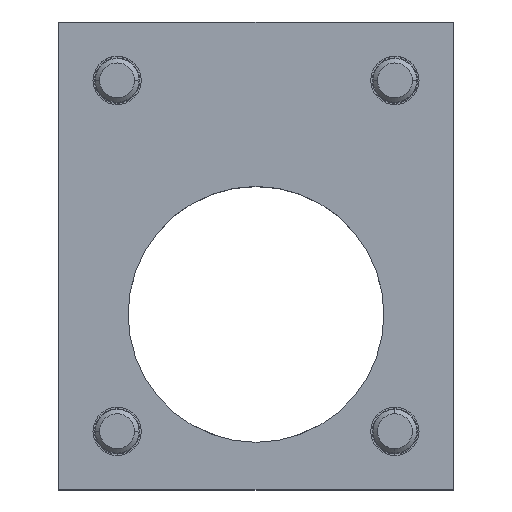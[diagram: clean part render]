
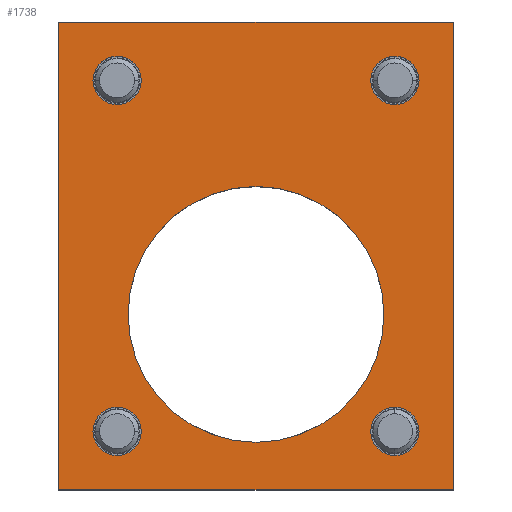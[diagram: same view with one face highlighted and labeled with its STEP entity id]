
A CAD part, top view. The second image highlights one B-rep face of the part: STEP entity #1738.
In plain terms, the highlighted planar face has unit normal (0, 0, 1).
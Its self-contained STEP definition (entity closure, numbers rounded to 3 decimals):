
#110 = CARTESIAN_POINT ( 'NONE',  ( -19., 32., -20. ) ) ;
#114 = DIRECTION ( 'NONE',  ( 0., 0., -1. ) ) ;
#195 = AXIS2_PLACEMENT_3D ( 'NONE', #1762, #114, #1447 ) ;
#222 = CARTESIAN_POINT ( 'NONE',  ( -27., 40., -20. ) ) ;
#250 = CIRCLE ( 'NONE', #2691, 3.3 ) ;
#263 = CARTESIAN_POINT ( 'NONE',  ( 0., 0., -20. ) ) ;
#278 = DIRECTION ( 'NONE',  ( 0., 0., -1. ) ) ;
#338 = FACE_BOUND ( 'NONE', #4286, .T. ) ;
#344 = ORIENTED_EDGE ( 'NONE', *, *, #3284, .T. ) ;
#348 = VERTEX_POINT ( 'NONE', #2544 ) ;
#381 = CARTESIAN_POINT ( 'NONE',  ( -19., 35.3, -20. ) ) ;
#387 = LINE ( 'NONE', #1229, #2832 ) ;
#413 = DIRECTION ( 'NONE',  ( 0., 0., -1. ) ) ;
#468 = CIRCLE ( 'NONE', #2631, 3.3 ) ;
#472 = CARTESIAN_POINT ( 'NONE',  ( 0., -17.5, -20. ) ) ;
#515 = CIRCLE ( 'NONE', #662, 3.3 ) ;
#521 = CARTESIAN_POINT ( 'NONE',  ( -19., -16., -20. ) ) ;
#546 = AXIS2_PLACEMENT_3D ( 'NONE', #4016, #1046, #2363 ) ;
#547 = AXIS2_PLACEMENT_3D ( 'NONE', #3913, #666, #3985 ) ;
#555 = CARTESIAN_POINT ( 'NONE',  ( -27., -24., -20. ) ) ;
#559 = CARTESIAN_POINT ( 'NONE',  ( 19., 28.7, -20. ) ) ;
#585 = CARTESIAN_POINT ( 'NONE',  ( 19., -12.7, -20. ) ) ;
#600 = EDGE_LOOP ( 'NONE', ( #1154, #344 ) ) ;
#632 = EDGE_CURVE ( 'NONE', #348, #3153, #1225, .T. ) ;
#662 = AXIS2_PLACEMENT_3D ( 'NONE', #2421, #3081, #2457 ) ;
#666 = DIRECTION ( 'NONE',  ( 0., 0., 1. ) ) ;
#769 = EDGE_CURVE ( 'NONE', #3259, #1890, #2541, .T. ) ;
#803 = VECTOR ( 'NONE', #1583, 1000. ) ;
#812 = VERTEX_POINT ( 'NONE', #1200 ) ;
#813 = DIRECTION ( 'NONE',  ( 0., 1., 0. ) ) ;
#820 = EDGE_CURVE ( 'NONE', #812, #2087, #3844, .T. ) ;
#825 = LINE ( 'NONE', #222, #3181 ) ;
#878 = EDGE_CURVE ( 'NONE', #3431, #2520, #250, .T. ) ;
#911 = VERTEX_POINT ( 'NONE', #585 ) ;
#942 = CIRCLE ( 'NONE', #2322, 3.3 ) ;
#966 = CIRCLE ( 'NONE', #546, 17.5 ) ;
#991 = FACE_OUTER_BOUND ( 'NONE', #3327, .T. ) ;
#1046 = DIRECTION ( 'NONE',  ( 0., 0., -1. ) ) ;
#1149 = ORIENTED_EDGE ( 'NONE', *, *, #2978, .T. ) ;
#1154 = ORIENTED_EDGE ( 'NONE', *, *, #878, .T. ) ;
#1171 = CARTESIAN_POINT ( 'NONE',  ( 27., -24., -20. ) ) ;
#1200 = CARTESIAN_POINT ( 'NONE',  ( -27., 40., -20. ) ) ;
#1201 = LINE ( 'NONE', #3180, #803 ) ;
#1225 = CIRCLE ( 'NONE', #4208, 3.3 ) ;
#1227 = CARTESIAN_POINT ( 'NONE',  ( 0., 17.5, -20. ) ) ;
#1229 = CARTESIAN_POINT ( 'NONE',  ( 27., -24., -20. ) ) ;
#1258 = EDGE_LOOP ( 'NONE', ( #1149, #3496 ) ) ;
#1280 = CARTESIAN_POINT ( 'NONE',  ( 19., 32., -20. ) ) ;
#1288 = ORIENTED_EDGE ( 'NONE', *, *, #2114, .T. ) ;
#1295 = VERTEX_POINT ( 'NONE', #2018 ) ;
#1315 = FACE_BOUND ( 'NONE', #1258, .T. ) ;
#1401 = CARTESIAN_POINT ( 'NONE',  ( -19., -12.7, -20. ) ) ;
#1447 = DIRECTION ( 'NONE',  ( 0., 1., 0. ) ) ;
#1495 = ORIENTED_EDGE ( 'NONE', *, *, #2540, .F. ) ;
#1538 = CARTESIAN_POINT ( 'NONE',  ( 27., 40., -20. ) ) ;
#1547 = DIRECTION ( 'NONE',  ( 0., 1., 0. ) ) ;
#1553 = CARTESIAN_POINT ( 'NONE',  ( -19., 32., -20. ) ) ;
#1562 = ORIENTED_EDGE ( 'NONE', *, *, #632, .T. ) ;
#1583 = DIRECTION ( 'NONE',  ( -1., 0., 0. ) ) ;
#1586 = DIRECTION ( 'NONE',  ( 0., 0., -1. ) ) ;
#1670 = DIRECTION ( 'NONE',  ( 0., 1., 0. ) ) ;
#1738 = ADVANCED_FACE ( 'NONE', ( #1315, #338, #2641, #2592, #3964, #991 ), #2308, .T. ) ;
#1762 = CARTESIAN_POINT ( 'NONE',  ( -19., -16., -20. ) ) ;
#1795 = EDGE_CURVE ( 'NONE', #1890, #3259, #3743, .T. ) ;
#1890 = VERTEX_POINT ( 'NONE', #1958 ) ;
#1894 = DIRECTION ( 'NONE',  ( 1., 0., 0. ) ) ;
#1958 = CARTESIAN_POINT ( 'NONE',  ( -19., -19.3, -20. ) ) ;
#1976 = ORIENTED_EDGE ( 'NONE', *, *, #3868, .F. ) ;
#2018 = CARTESIAN_POINT ( 'NONE',  ( 19., -19.3, -20. ) ) ;
#2087 = VERTEX_POINT ( 'NONE', #3535 ) ;
#2100 = DIRECTION ( 'NONE',  ( 0., 0., -1. ) ) ;
#2112 = AXIS2_PLACEMENT_3D ( 'NONE', #2739, #2100, #2714 ) ;
#2114 = EDGE_CURVE ( 'NONE', #3153, #348, #468, .T. ) ;
#2118 = ORIENTED_EDGE ( 'NONE', *, *, #3772, .T. ) ;
#2204 = DIRECTION ( 'NONE',  ( 0., -1., 0. ) ) ;
#2308 = PLANE ( 'NONE',  #547 ) ;
#2322 = AXIS2_PLACEMENT_3D ( 'NONE', #3423, #413, #3932 ) ;
#2363 = DIRECTION ( 'NONE',  ( 0., 1., 0. ) ) ;
#2420 = DIRECTION ( 'NONE',  ( 0., 0., -1. ) ) ;
#2421 = CARTESIAN_POINT ( 'NONE',  ( 19., -16., -20. ) ) ;
#2457 = DIRECTION ( 'NONE',  ( 0., 1., 0. ) ) ;
#2520 = VERTEX_POINT ( 'NONE', #559 ) ;
#2540 = EDGE_CURVE ( 'NONE', #3493, #812, #825, .T. ) ;
#2541 = CIRCLE ( 'NONE', #3240, 3.3 ) ;
#2544 = CARTESIAN_POINT ( 'NONE',  ( -19., 28.7, -20. ) ) ;
#2560 = VERTEX_POINT ( 'NONE', #1227 ) ;
#2573 = CARTESIAN_POINT ( 'NONE',  ( 19., 35.3, -20. ) ) ;
#2592 = FACE_BOUND ( 'NONE', #2805, .T. ) ;
#2629 = EDGE_CURVE ( 'NONE', #2087, #2744, #387, .T. ) ;
#2631 = AXIS2_PLACEMENT_3D ( 'NONE', #1553, #3510, #3195 ) ;
#2641 = FACE_BOUND ( 'NONE', #2908, .T. ) ;
#2653 = DIRECTION ( 'NONE',  ( 0., 1., 0. ) ) ;
#2678 = DIRECTION ( 'NONE',  ( 0., 1., 0. ) ) ;
#2691 = AXIS2_PLACEMENT_3D ( 'NONE', #1280, #278, #2653 ) ;
#2714 = DIRECTION ( 'NONE',  ( 0., 1., 0. ) ) ;
#2732 = ORIENTED_EDGE ( 'NONE', *, *, #820, .F. ) ;
#2739 = CARTESIAN_POINT ( 'NONE',  ( 19., 32., -20. ) ) ;
#2744 = VERTEX_POINT ( 'NONE', #1171 ) ;
#2805 = EDGE_LOOP ( 'NONE', ( #3700, #3603 ) ) ;
#2832 = VECTOR ( 'NONE', #2204, 1000. ) ;
#2835 = CIRCLE ( 'NONE', #3320, 17.5 ) ;
#2908 = EDGE_LOOP ( 'NONE', ( #4045, #2118 ) ) ;
#2978 = EDGE_CURVE ( 'NONE', #2560, #4178, #2835, .T. ) ;
#3016 = CIRCLE ( 'NONE', #2112, 3.3 ) ;
#3069 = EDGE_CURVE ( 'NONE', #4178, #2560, #966, .T. ) ;
#3072 = ORIENTED_EDGE ( 'NONE', *, *, #2629, .F. ) ;
#3081 = DIRECTION ( 'NONE',  ( 0., 0., -1. ) ) ;
#3153 = VERTEX_POINT ( 'NONE', #381 ) ;
#3174 = VECTOR ( 'NONE', #1894, 1000. ) ;
#3180 = CARTESIAN_POINT ( 'NONE',  ( -27., -24., -20. ) ) ;
#3181 = VECTOR ( 'NONE', #1547, 1000. ) ;
#3195 = DIRECTION ( 'NONE',  ( 0., 1., 0. ) ) ;
#3240 = AXIS2_PLACEMENT_3D ( 'NONE', #521, #3785, #813 ) ;
#3259 = VERTEX_POINT ( 'NONE', #1401 ) ;
#3284 = EDGE_CURVE ( 'NONE', #2520, #3431, #3016, .T. ) ;
#3320 = AXIS2_PLACEMENT_3D ( 'NONE', #263, #1586, #1670 ) ;
#3327 = EDGE_LOOP ( 'NONE', ( #2732, #1495, #1976, #3072 ) ) ;
#3423 = CARTESIAN_POINT ( 'NONE',  ( 19., -16., -20. ) ) ;
#3431 = VERTEX_POINT ( 'NONE', #2573 ) ;
#3493 = VERTEX_POINT ( 'NONE', #555 ) ;
#3496 = ORIENTED_EDGE ( 'NONE', *, *, #3069, .T. ) ;
#3510 = DIRECTION ( 'NONE',  ( 0., 0., -1. ) ) ;
#3535 = CARTESIAN_POINT ( 'NONE',  ( 27., 40., -20. ) ) ;
#3603 = ORIENTED_EDGE ( 'NONE', *, *, #1795, .T. ) ;
#3700 = ORIENTED_EDGE ( 'NONE', *, *, #769, .T. ) ;
#3743 = CIRCLE ( 'NONE', #195, 3.3 ) ;
#3772 = EDGE_CURVE ( 'NONE', #1295, #911, #515, .T. ) ;
#3785 = DIRECTION ( 'NONE',  ( 0., 0., -1. ) ) ;
#3844 = LINE ( 'NONE', #1538, #3174 ) ;
#3868 = EDGE_CURVE ( 'NONE', #2744, #3493, #1201, .T. ) ;
#3913 = CARTESIAN_POINT ( 'NONE',  ( 0., 8., -20. ) ) ;
#3932 = DIRECTION ( 'NONE',  ( 0., 1., 0. ) ) ;
#3964 = FACE_BOUND ( 'NONE', #600, .T. ) ;
#3985 = DIRECTION ( 'NONE',  ( 0., -1., 0. ) ) ;
#4016 = CARTESIAN_POINT ( 'NONE',  ( 0., 0., -20. ) ) ;
#4045 = ORIENTED_EDGE ( 'NONE', *, *, #4056, .T. ) ;
#4056 = EDGE_CURVE ( 'NONE', #911, #1295, #942, .T. ) ;
#4178 = VERTEX_POINT ( 'NONE', #472 ) ;
#4208 = AXIS2_PLACEMENT_3D ( 'NONE', #110, #2420, #2678 ) ;
#4286 = EDGE_LOOP ( 'NONE', ( #1288, #1562 ) ) ;
